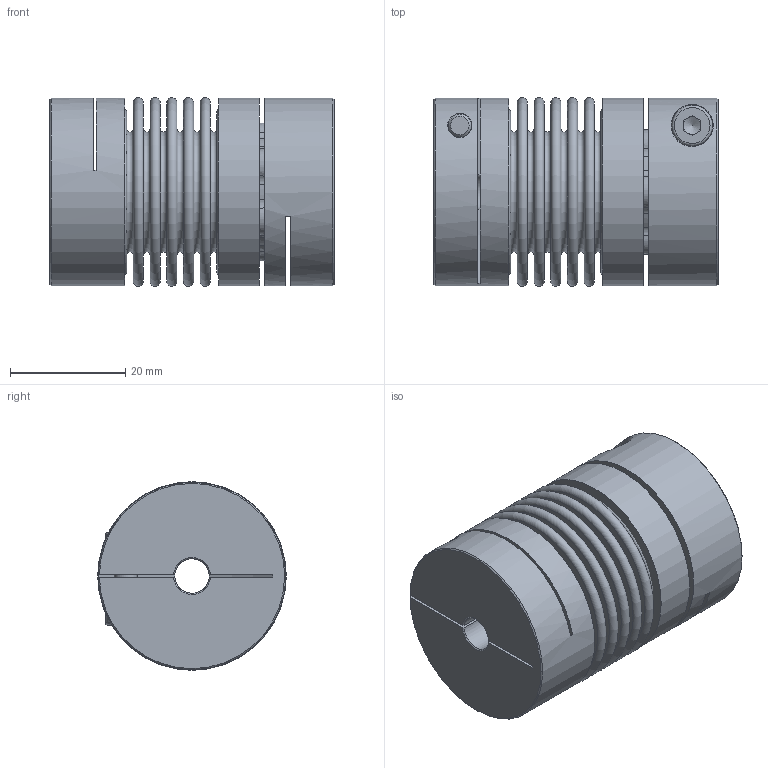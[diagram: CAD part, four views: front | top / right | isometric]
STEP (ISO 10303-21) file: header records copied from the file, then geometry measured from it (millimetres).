
FILE_DESCRIPTION( ( 'KBE1/14 - N7H8 - N14H7 - 98 Sh' ), '1' );
FILE_NAME( 'K:/Konstruktion/Fertigungszeichnungen/Metallbalgkupplung/KB2P/45/KB2P-45-49.stp', '14.12.2015', ( 'KBK-Antriebstechnik' ), ( 'KBK-Antriebstechnik' ), 'PSStep 16.0.42', 'Solid Edge St6', ' ' );
FILE_SCHEMA( ( 'AUTOMOTIVE_DESIGN { 1 0 10303 214 1 1 1 1 }' ) );
Length unit declared in the file: millimetre
Products named in the file (6): Assem1; BK45_Standard_0; KN45_Standard_1; Socket Head Cap Screw_DIN_DIN 912 M4 x 12 --- 12N_2; Stecknabe KB2P-45; Balgaufnahme KB2P-45 für Step
Assembly tree (6 placements, depth 2):
  Assem1
    BK45_Standard_0
    KN45_Standard_1
    Socket Head Cap Screw_DIN_DIN 912 M4 x 12 --- 12N_2  x2
    Stecknabe KB2P-45
    Balgaufnahme KB2P-45 für Step
Bounding box: 49.25 x 32.67 x 32.67 mm (x, y, z)
Volume: 26922 mm3; surface area: 26221.1 mm2
Topology: 6 solids, 6 shells, 189 faces, 430 edges, 280 vertices
Faces by surface type: plane 79, cone 56, torus 31, cylinder 23
Full cylindrical faces by diameter (mm): 3.242 x1, 4 x3, 4.2 x2, 6 x2, 7 x2, 7.3 x2, 28.2 x2, 28.8 x2, 32.5 x3
Entity records: 6271 total; most frequent: CARTESIAN_POINT 1027, DIRECTION 870, ORIENTED_EDGE 654, AXIS2_PLACEMENT_3D 382, EDGE_CURVE 327, EDGE_LOOP 258, VERTEX_POINT 254, FACE_OUTER_BOUND 214
